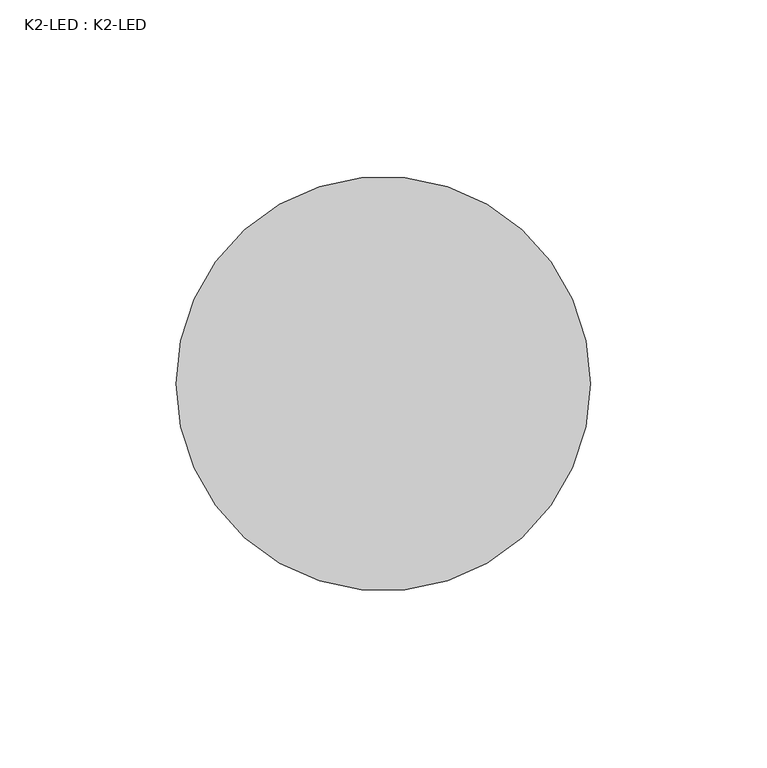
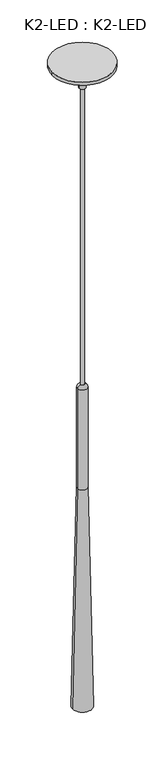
"""IFC4 building model written with IfcOpenShell, lengths in millimetres: light fixture geometry, K2-LED : K2-LED."""

from ifc_helpers import new_model, si_unit, point, frame, origin, origin_2d, place, context, project, spatial, polyline, circle_curve, ellipse_curve, trimmed, segment, composite_curve, outline, extrude, source, transform, mapped, element, save
from ifc_brep_helpers import plane_surface, cylinder_surface, revolved_surface, advanced_brep


def k2_led_k2_led_972ef8e3(model_context):
    return source(origin(), model_context, "Body", "SolidModel", [
        extrude(outline(composite_curve([segment(trimmed(circle_curve(origin_2d(), 3.175), [point((-3.175, 0.0))], [point((3.175, 0.0))], False, "CARTESIAN"), True, "CONTINUOUS"), segment(trimmed(circle_curve(origin_2d(), 3.175), [point((3.175, 0.0))], [point((-3.175, 0.0))], False, "CARTESIAN"), True, "CONTINUOUS")], self_intersect=False)), frame((0.0, 0.0, 1193.8), z_axis=(0.0, 0.0, 1.0), x_axis=(1.0, 0.0, 0.0)), (0.0, 0.0, 1.0), 1193.8),
        advanced_brep(
        [(-3.2496917, 0.0, 1219.2), (3.2496917, 0.0, 1219.2), (17.692089, 0.0, 1130.3), (-17.692089, 0.0, 1130.3), (-14.4423973, 0.0, 1130.3), (14.4423973, 0.0, 1130.3), (0.0, 0.0, 1219.2), (0.0, 0.0, 1219.2)],
        [
            (0, 1, circle_curve(frame((0.0, 0.0, 1219.2), z_axis=(0.0, 0.0, -1.0), x_axis=(1.0, 0.0, 0.0)), 3.2496917)),
            (1, 2),
            (2, 3, circle_curve(frame((0.0, 0.0, 1130.3), z_axis=(0.0, 0.0, 1.0), x_axis=(1.0, 0.0, 0.0)), 17.692089)),
            (3, 0),
            (1, 0, circle_curve(frame((0.0, 0.0, 1219.2), z_axis=(0.0, 0.0, -1.0), x_axis=(1.0, 0.0, 0.0)), 3.2496917)),
            (3, 2, circle_curve(frame((0.0, 0.0, 1130.3), z_axis=(0.0, 0.0, 1.0), x_axis=(1.0, 0.0, 0.0)), 17.692089)),
            (4, 5, circle_curve(frame((0.0, 0.0, 1130.3), z_axis=(0.0, 0.0, -1.0), x_axis=(1.0, 0.0, 0.0)), 14.4423973)),
            (5, 6),
            (6, 4),
            (5, 4, circle_curve(frame((0.0, 0.0, 1130.3), z_axis=(0.0, 0.0, -1.0), x_axis=(1.0, 0.0, 0.0)), 14.4423973)),
            (2, 5),
            (4, 3),
            (7, 1),
            (0, 7),
        ],
        [
            revolved_surface(polyline([(17.692089, 0.0, 1130.3), (3.2496917, 0.0, 1219.2)]), (0.0, 0.0, 1117.6), (0.0, 0.0, 1.0)),
            revolved_surface(polyline([(0.0, 0.0, 1219.2), (14.4423973, 0.0, 1130.3)]), (0.0, 0.0, 1117.6), (0.0, 0.0, 1.0)),
            plane_surface(frame((0.0, 0.0, 1130.3), z_axis=(0.0, 0.0, -1.0), x_axis=(1.0, 0.0, 0.0))),
            plane_surface(frame((0.0, 0.0, 1219.2), z_axis=(0.0, 0.0, 1.0), x_axis=(1.0, 0.0, 0.0))),
        ],
        [
            (0, [[1, 2, 3, 4]]),
            (0, [[5, -4, 6, -2]]),
            (1, [[7, 8, 9]]),
            (1, [[10, -9, -8]]),
            (2, [[-3, 11, -7, 12]]),
            (2, [[-6, -12, -10, -11]]),
            (3, [[13, -1, 14]]),
            (3, [[-14, -5, -13]]),
        ],
    ),
        advanced_brep(
        [(-9.525, 0.0, 1566.2733592), (9.525, 0.0, 1566.2733592), (19.05, 0.0, 1117.6), (-19.05, 0.0, 1117.6), (-9.525, 0.0, 1771.65), (9.525, 0.0, 1771.65), (-3.175, 0.0, 1778.0), (3.175, 0.0, 1778.0), (-3.175, 0.0, 1715.7974479), (3.175, 0.0, 1715.7974479), (15.8742846, 0.0, 1117.6), (-15.8742846, 0.0, 1117.6)],
        [
            (0, 1, circle_curve(frame((0.0, 0.0, 1566.2733592), z_axis=(0.0, 0.0, -1.0), x_axis=(1.0, 0.0, 0.0)), 9.525)),
            (1, 2),
            (2, 3, circle_curve(frame((0.0, 0.0, 1117.6), z_axis=(0.0, 0.0, 1.0), x_axis=(1.0, 0.0, 0.0)), 19.05)),
            (3, 0),
            (1, 0, circle_curve(frame((0.0, 0.0, 1566.2733592), z_axis=(0.0, 0.0, -1.0), x_axis=(1.0, 0.0, 0.0)), 9.525)),
            (3, 2, circle_curve(frame((0.0, 0.0, 1117.6), z_axis=(0.0, 0.0, 1.0), x_axis=(1.0, 0.0, 0.0)), 19.05)),
            (4, 5, circle_curve(frame((0.0, 0.0, 1771.65), z_axis=(0.0, 0.0, -1.0), x_axis=(1.0, 0.0, 0.0)), 9.525)),
            (5, 1),
            (0, 4),
            (5, 4, circle_curve(frame((0.0, 0.0, 1771.65), z_axis=(0.0, 0.0, -1.0), x_axis=(1.0, 0.0, 0.0)), 9.525)),
            (6, 7, circle_curve(frame((0.0, 0.0, 1778.0), z_axis=(0.0, 0.0, -1.0), x_axis=(1.0, 0.0, 0.0)), 3.175)),
            (7, 5, circle_curve(frame((3.175, 0.0, 1771.65), z_axis=(0.0, 1.0, 0.0), x_axis=(1.0, 0.0, 0.0)), 6.35)),
            (4, 6, circle_curve(frame((-3.175, 0.0, 1771.65), z_axis=(0.0, 1.0, 0.0), x_axis=(-1.0, 0.0, 0.0)), 6.35)),
            (7, 6, circle_curve(frame((0.0, 0.0, 1778.0), z_axis=(0.0, 0.0, -1.0), x_axis=(1.0, 0.0, 0.0)), 3.175)),
            (8, 9, circle_curve(frame((0.0, 0.0, 1715.7974479), z_axis=(0.0, 0.0, -1.0), x_axis=(1.0, 0.0, 0.0)), 3.175)),
            (9, 7),
            (6, 8),
            (9, 8, circle_curve(frame((0.0, 0.0, 1715.7974479), z_axis=(0.0, 0.0, -1.0), x_axis=(1.0, 0.0, 0.0)), 3.175)),
            (2, 10),
            (10, 11, circle_curve(frame((0.0, 0.0, 1117.6), z_axis=(0.0, 0.0, 1.0), x_axis=(1.0, 0.0, 0.0)), 15.8742846)),
            (11, 3),
            (11, 10, circle_curve(frame((0.0, 0.0, 1117.6), z_axis=(0.0, 0.0, 1.0), x_axis=(1.0, 0.0, 0.0)), 15.8742846)),
            (10, 9),
            (8, 11),
        ],
        [
            revolved_surface(polyline([(19.05, 0.0, 1117.6), (9.525, 0.0, 1566.2733592)]), (0.0, 0.0, 1117.6), (0.0, 0.0, 1.0)),
            cylinder_surface(frame((0.0, 0.0, 1117.6), z_axis=(0.0, 0.0, 1.0), x_axis=(1.0, 0.0, 0.0)), 9.525),
            revolved_surface(trimmed(ellipse_curve(frame((3.175, 0.0, 1771.65), z_axis=(0.0, -1.0, 0.0), x_axis=(1.0, 0.0, 0.0)), 6.35, 6.35), [point((9.525, 0.0, 1771.65))], [point((3.175, 0.0, 1778.0))], True, "CARTESIAN"), (0.0, 0.0, 1117.6), (0.0, 0.0, 1.0)),
            revolved_surface(polyline([(3.175, 0.0, 1778.0), (3.175, 0.0, 1715.7974479)]), (0.0, 0.0, 1117.6), (0.0, 0.0, 1.0)),
            plane_surface(frame((0.0, 0.0, 1117.6), z_axis=(0.0, 0.0, -1.0), x_axis=(1.0, 0.0, 0.0))),
            revolved_surface(polyline([(3.175, 0.0, 1715.7974479), (15.8742846, 0.0, 1117.6)]), (0.0, 0.0, 1117.6), (0.0, 0.0, 1.0)),
        ],
        [
            (0, [[1, 2, 3, 4]]),
            (0, [[5, -4, 6, -2]]),
            (1, [[7, 8, -1, 9]]),
            (1, [[10, -9, -5, -8]]),
            (2, [[11, 12, -7, 13]]),
            (2, [[14, -13, -10, -12]]),
            (3, [[15, 16, -11, 17]]),
            (3, [[18, -17, -14, -16]]),
            (4, [[-3, 19, 20, 21]]),
            (4, [[-6, -21, 22, -19]]),
            (5, [[-20, 23, -15, 24]]),
            (5, [[-22, -24, -18, -23]]),
        ],
    ),
        advanced_brep(
        [(-58.7375, 0.0, 2438.4), (58.7375, 0.0, 2438.4), (-6.35, 0.0, 2387.6), (6.35, 0.0, 2387.6), (6.35, 0.0, 2432.05), (-6.35, 0.0, 2432.05), (-58.7375, 0.0, 2432.05), (58.7375, 0.0, 2432.05)],
        [
            (0, 1, circle_curve(frame((0.0, 0.0, 2438.4), z_axis=(0.0, 0.0, 1.0), x_axis=(1.0, 0.0, 0.0)), 58.7375)),
            (1, 0, circle_curve(frame((0.0, 0.0, 2438.4), z_axis=(0.0, 0.0, 1.0), x_axis=(1.0, 0.0, 0.0)), 58.7375)),
            (2, 3, circle_curve(frame((0.0, 0.0, 2387.6), z_axis=(0.0, 0.0, -1.0), x_axis=(1.0, 0.0, 0.0)), 6.35)),
            (3, 2, circle_curve(frame((0.0, 0.0, 2387.6), z_axis=(0.0, 0.0, -1.0), x_axis=(1.0, 0.0, 0.0)), 6.35)),
            (3, 4),
            (4, 5, circle_curve(frame((0.0, 0.0, 2432.05), z_axis=(0.0, 0.0, -1.0), x_axis=(1.0, 0.0, 0.0)), 6.35)),
            (5, 2),
            (5, 4, circle_curve(frame((0.0, 0.0, 2432.05), z_axis=(0.0, 0.0, -1.0), x_axis=(1.0, 0.0, 0.0)), 6.35)),
            (6, 7, circle_curve(frame((0.0, 0.0, 2432.05), z_axis=(0.0, 0.0, -1.0), x_axis=(1.0, 0.0, 0.0)), 58.7375)),
            (7, 6, circle_curve(frame((0.0, 0.0, 2432.05), z_axis=(0.0, 0.0, -1.0), x_axis=(1.0, 0.0, 0.0)), 58.7375)),
            (7, 1),
            (0, 6),
        ],
        [
            plane_surface(frame((6.35, 0.0, 2438.4), z_axis=(0.0, 0.0, 1.0), x_axis=(0.0, 1.0, 0.0))),
            plane_surface(frame((6.35, 0.0, 2387.6), z_axis=(0.0, 0.0, -1.0), x_axis=(0.0, -1.0, 0.0))),
            cylinder_surface(frame((0.0, 0.0, 2387.6), z_axis=(0.0, 0.0, 1.0), x_axis=(1.0, 0.0, 0.0)), 6.35),
            plane_surface(frame((58.7375, 0.0, 2432.05), z_axis=(0.0, 0.0, -1.0), x_axis=(0.0, -1.0, 0.0))),
            cylinder_surface(frame((0.0, 0.0, 2432.05), z_axis=(0.0, 0.0, 1.0), x_axis=(1.0, 0.0, 0.0)), 58.7375),
        ],
        [
            (0, [[1, 2]]),
            (1, [[3, 4]]),
            (2, [[-4, 5, 6, 7]]),
            (2, [[-3, -7, 8, -5]]),
            (3, [[9, 10], [-6, -8]]),
            (4, [[-10, 11, -1, 12]]),
            (4, [[-9, -12, -2, -11]]),
        ],
    ),
    ])


if __name__ == "__main__":
    model = new_model("IFC4")
    model_context = context("Model", 3, world=origin())
    ifc_project = project(units=[si_unit("LENGTHUNIT", "METRE", prefix="MILLI")], contexts=[model_context])
    site = spatial("IfcSite", under=ifc_project)
    building = spatial("IfcBuilding", under=site)
    placement = place(None, origin())
    k2_led_k2_led_shape = k2_led_k2_led_972ef8e3(model_context)
    element("IfcLightFixture", 1, ObjectType="K2-LED : K2-LED", at=placement, inside=building, context=model_context, shape_type="MappedRepresentation", body=[
        mapped(k2_led_k2_led_shape, transform((0.0, 0.0, 0.0), x_axis=(1.0, 0.0, 0.0), y_axis=(0.0, 1.0, 0.0), z_axis=(0.0, 0.0, 1.0))),
    ])
    save(model, "model.ifc")
